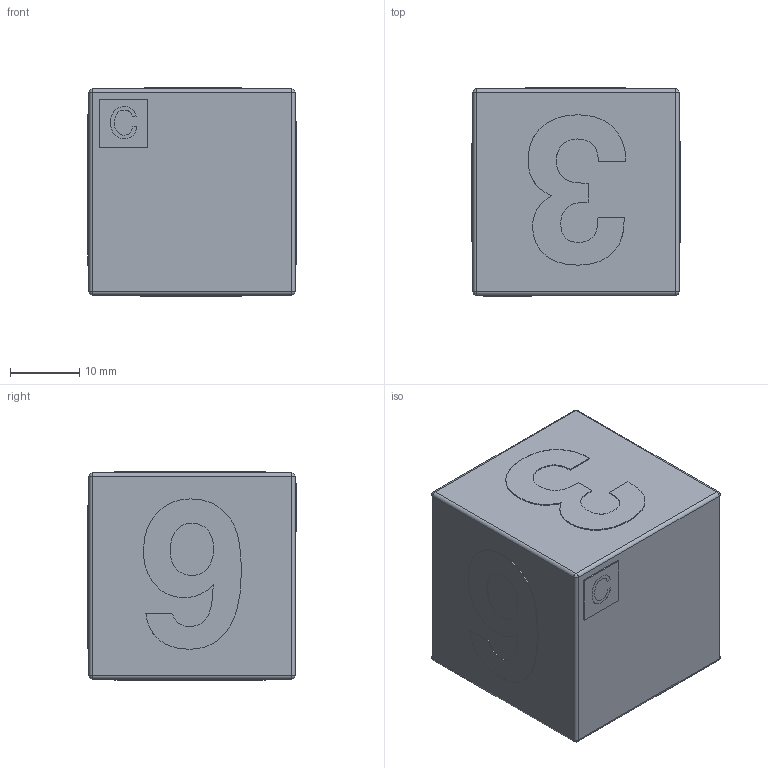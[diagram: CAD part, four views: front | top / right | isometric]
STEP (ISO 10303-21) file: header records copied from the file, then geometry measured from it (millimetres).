
FILE_DESCRIPTION(('Open CASCADE Model'),'2;1');
FILE_NAME('Open CASCADE Shape Model','2025-09-14T20:47:12',('Author'),( 'Open CASCADE'),'Open CASCADE STEP processor 7.8','Open CASCADE 7.8' ,'Unknown');
FILE_SCHEMA(('AUTOMOTIVE_DESIGN { 1 0 10303 214 1 1 1 1 }'));
Length unit declared in the file: millimetre
Products named in the file (18): 9b7cc992-91a3-11f0-88d2-1c1b0deae66b; 9b7ccb4a-91a3-11f0-88d2-1c1b0deae66b; 9b7ccb4a-91a3-11f0-88d2-1c1b0deae66b_part; 9b7f0644-91a3-11f0-88d2-1c1b0deae66b; 9b7f0644-91a3-11f0-88d2-1c1b0deae66b_part; 9b804c7a-91a3-11f0-88d2-1c1b0deae66b; 9b804c7a-91a3-11f0-88d2-1c1b0deae66b_part; 9b82220c-91a3-11f0-88d2-1c1b0deae66b; 9b82220c-91a3-11f0-88d2-1c1b0deae66b_part; 9b83ce5e-91a3-11f0-88d2-1c1b0deae66b; 9b83ce5e-91a3-11f0-88d2-1c1b0deae66b_part; 9b859a4a-91a3-11f0-88d2-1c1b0deae66b; 9b859a4a-91a3-11f0-88d2-1c1b0deae66b_part; 9b92a5aa-91a3-11f0-88d2-1c1b0deae66b; 9b92a5aa-91a3-11f0-88d2-1c1b0deae66b_part; 9b92a712-91a3-11f0-88d2-1c1b0deae66b; 9b92a712-91a3-11f0-88d2-1c1b0deae66b_part
Assembly tree (17 placements, depth 4):
  9b7cc992-91a3-11f0-88d2-1c1b0deae66b
    9b7cc992-91a3-11f0-88d2-1c1b0deae66b
      9b7ccb4a-91a3-11f0-88d2-1c1b0deae66b
        9b7ccb4a-91a3-11f0-88d2-1c1b0deae66b_part
      9b7f0644-91a3-11f0-88d2-1c1b0deae66b
        9b7f0644-91a3-11f0-88d2-1c1b0deae66b_part
      9b804c7a-91a3-11f0-88d2-1c1b0deae66b
        9b804c7a-91a3-11f0-88d2-1c1b0deae66b_part
      9b82220c-91a3-11f0-88d2-1c1b0deae66b
        9b82220c-91a3-11f0-88d2-1c1b0deae66b_part
      9b83ce5e-91a3-11f0-88d2-1c1b0deae66b
        9b83ce5e-91a3-11f0-88d2-1c1b0deae66b_part
      9b859a4a-91a3-11f0-88d2-1c1b0deae66b
        9b859a4a-91a3-11f0-88d2-1c1b0deae66b_part
      9b92a5aa-91a3-11f0-88d2-1c1b0deae66b
        9b92a5aa-91a3-11f0-88d2-1c1b0deae66b_part
      9b92a712-91a3-11f0-88d2-1c1b0deae66b
        9b92a712-91a3-11f0-88d2-1c1b0deae66b_part
Bounding box: 30 x 30 x 30 mm (x, y, z)
Volume: 26302.3 mm3; surface area: 6936.8 mm2
Topology: 8 solids, 8 shells, 209 faces, 563 edges, 362 vertices
Faces by surface type: extrusion 131, plane 58, cylinder 12, sphere 8
Entity records: 14171 total; most frequent: CARTESIAN_POINT 3596, DIRECTION 1456, VECTOR 1216, ORIENTED_EDGE 1110, PCURVE 1110, DEFINITIONAL_REPRESENTATION 1110, LINE 1085, B_SPLINE_CURVE_WITH_KNOTS 687
